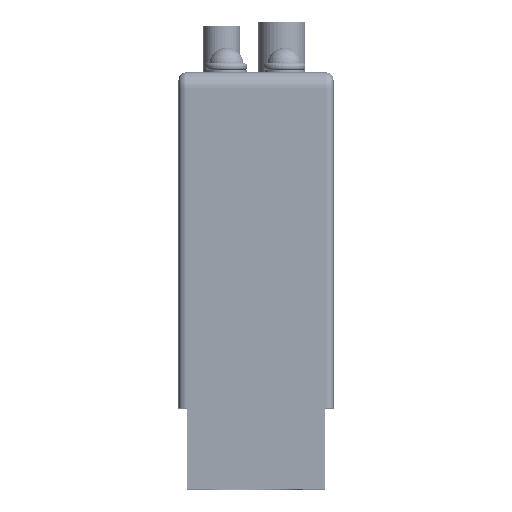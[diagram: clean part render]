
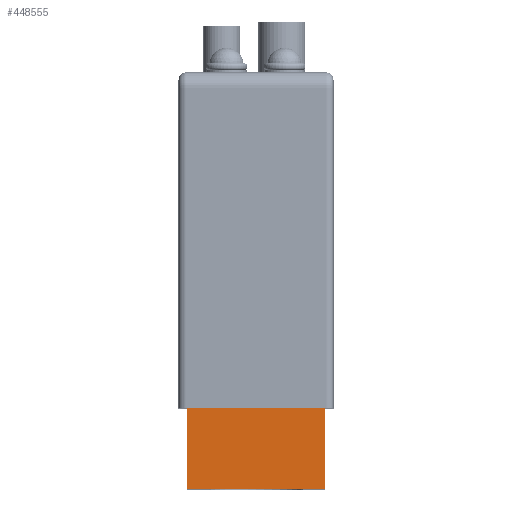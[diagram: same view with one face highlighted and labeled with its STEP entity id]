
A CAD part, top view. The second image highlights one B-rep face of the part: STEP entity #448555.
In plain terms, the highlighted planar face has unit normal (0, 0, 1).
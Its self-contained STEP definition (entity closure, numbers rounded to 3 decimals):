
#5211 = CARTESIAN_POINT ( 'NONE',  ( -35.5, 0., 148. ) ) ;
#30790 = DIRECTION ( 'NONE',  ( 0., -1., 0. ) ) ;
#33272 = DIRECTION ( 'NONE',  ( -1., 0., 0. ) ) ;
#55893 = CARTESIAN_POINT ( 'NONE',  ( -35.5, 42., 148. ) ) ;
#63306 = ORIENTED_EDGE ( 'NONE', *, *, #467002, .F. ) ;
#75981 = AXIS2_PLACEMENT_3D ( 'NONE', #189420, #179746, #33272 ) ;
#92274 = EDGE_CURVE ( 'NONE', #381499, #482855, #471751, .T. ) ;
#93570 = DIRECTION ( 'NONE',  ( 1., 0., 0. ) ) ;
#96476 = EDGE_CURVE ( 'NONE', #107690, #274329, #449050, .T. ) ;
#107690 = VERTEX_POINT ( 'NONE', #190536 ) ;
#126941 = VECTOR ( 'NONE', #371006, 1000. ) ;
#150481 = LINE ( 'NONE', #435991, #195857 ) ;
#154430 = CARTESIAN_POINT ( 'NONE',  ( 35.5, 42., 148. ) ) ;
#155427 = LINE ( 'NONE', #304081, #256228 ) ;
#179746 = DIRECTION ( 'NONE',  ( 0., 0., 1. ) ) ;
#186990 = FACE_OUTER_BOUND ( 'NONE', #377355, .T. ) ;
#189420 = CARTESIAN_POINT ( 'NONE',  ( 0., -6., 148. ) ) ;
#190536 = CARTESIAN_POINT ( 'NONE',  ( 35.5, 0., 148. ) ) ;
#195857 = VECTOR ( 'NONE', #30790, 1000. ) ;
#205134 = ORIENTED_EDGE ( 'NONE', *, *, #96476, .F. ) ;
#256228 = VECTOR ( 'NONE', #257804, 1000. ) ;
#257804 = DIRECTION ( 'NONE',  ( 0., 1., 0. ) ) ;
#274329 = VERTEX_POINT ( 'NONE', #5211 ) ;
#304081 = CARTESIAN_POINT ( 'NONE',  ( -35.5, 0., 148. ) ) ;
#325233 = CARTESIAN_POINT ( 'NONE',  ( 29.75, 42., 148. ) ) ;
#331056 = ORIENTED_EDGE ( 'NONE', *, *, #92274, .F. ) ;
#333296 = VECTOR ( 'NONE', #93570, 1000. ) ;
#333346 = PLANE ( 'NONE',  #75981 ) ;
#344490 = ORIENTED_EDGE ( 'NONE', *, *, #451417, .F. ) ;
#366145 = CARTESIAN_POINT ( 'NONE',  ( 35.5, 0., 148. ) ) ;
#371006 = DIRECTION ( 'NONE',  ( -1., 0., 0. ) ) ;
#377355 = EDGE_LOOP ( 'NONE', ( #331056, #344490, #205134, #63306 ) ) ;
#381499 = VERTEX_POINT ( 'NONE', #55893 ) ;
#435991 = CARTESIAN_POINT ( 'NONE',  ( 35.5, 42., 148. ) ) ;
#448555 = ADVANCED_FACE ( 'NONE', ( #186990 ), #333346, .T. ) ;
#449050 = LINE ( 'NONE', #366145, #126941 ) ;
#451417 = EDGE_CURVE ( 'NONE', #274329, #381499, #155427, .T. ) ;
#467002 = EDGE_CURVE ( 'NONE', #482855, #107690, #150481, .T. ) ;
#471751 = LINE ( 'NONE', #325233, #333296 ) ;
#482855 = VERTEX_POINT ( 'NONE', #154430 ) ;
